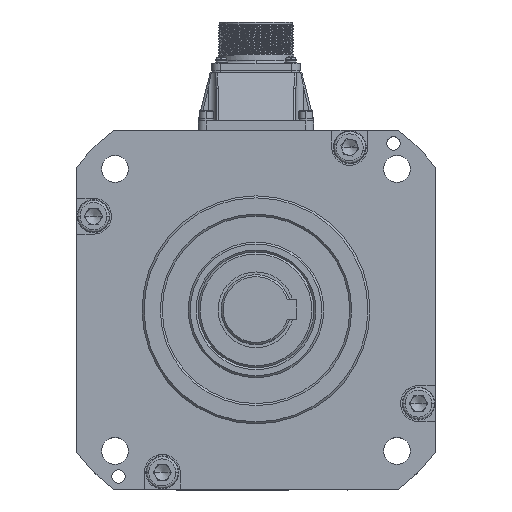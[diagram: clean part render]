
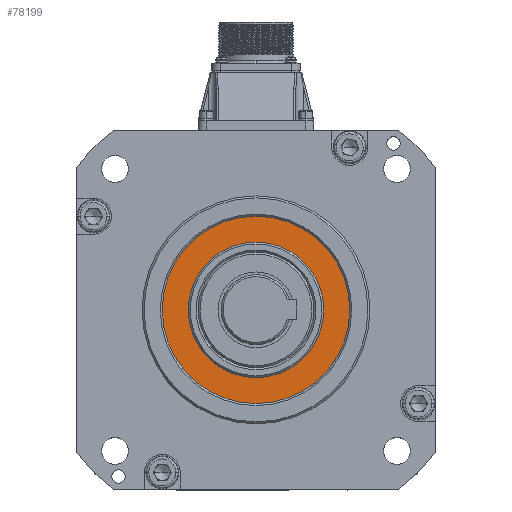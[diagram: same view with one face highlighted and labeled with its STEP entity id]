
A CAD part, top view. The second image highlights one B-rep face of the part: STEP entity #78199.
In plain terms, the highlighted planar face has unit normal (0, 0, 1).
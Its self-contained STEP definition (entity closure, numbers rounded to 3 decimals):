
#2444 = FACE_OUTER_BOUND ( 'NONE', #100768, .T. ) ;
#13107 = PLANE ( 'NONE',  #45770 ) ;
#14403 = DIRECTION ( 'NONE',  ( 0., 0., -1. ) ) ;
#15443 = EDGE_CURVE ( 'NONE', #40021, #72873, #42078, .T. ) ;
#18498 = DIRECTION ( 'NONE',  ( 0., 0., 1. ) ) ;
#21223 = DIRECTION ( 'NONE',  ( 1., 0., 0. ) ) ;
#29231 = EDGE_CURVE ( 'NONE', #72873, #40021, #89684, .T. ) ;
#32627 = ORIENTED_EDGE ( 'NONE', *, *, #53326, .T. ) ;
#35238 = ORIENTED_EDGE ( 'NONE', *, *, #29231, .T. ) ;
#39218 = CARTESIAN_POINT ( 'NONE',  ( 194.846, 148.184, 220.3 ) ) ;
#40021 = VERTEX_POINT ( 'NONE', #97111 ) ;
#42078 = CIRCLE ( 'NONE', #102518, 34. ) ;
#43380 = CIRCLE ( 'NONE', #103252, 47. ) ;
#45197 = CARTESIAN_POINT ( 'NONE',  ( 194.846, 148.184, 220.3 ) ) ;
#45770 = AXIS2_PLACEMENT_3D ( 'NONE', #45197, #69685, #21223 ) ;
#46860 = CARTESIAN_POINT ( 'NONE',  ( 194.846, 148.184, 220.3 ) ) ;
#47308 = DIRECTION ( 'NONE',  ( -1., 0., 0. ) ) ;
#47800 = CARTESIAN_POINT ( 'NONE',  ( 228.846, 148.184, 220.3 ) ) ;
#53326 = EDGE_CURVE ( 'NONE', #78063, #67942, #79044, .T. ) ;
#55059 = DIRECTION ( 'NONE',  ( -1., 0., 0. ) ) ;
#59794 = CARTESIAN_POINT ( 'NONE',  ( 241.846, 148.184, 220.3 ) ) ;
#62764 = AXIS2_PLACEMENT_3D ( 'NONE', #62800, #14403, #70943 ) ;
#62800 = CARTESIAN_POINT ( 'NONE',  ( 194.846, 148.184, 220.3 ) ) ;
#64446 = FACE_BOUND ( 'NONE', #96425, .T. ) ;
#65630 = AXIS2_PLACEMENT_3D ( 'NONE', #39218, #95746, #47308 ) ;
#66952 = CARTESIAN_POINT ( 'NONE',  ( 194.846, 148.184, 220.3 ) ) ;
#67942 = VERTEX_POINT ( 'NONE', #81357 ) ;
#69685 = DIRECTION ( 'NONE',  ( 0., 0., 1. ) ) ;
#70943 = DIRECTION ( 'NONE',  ( -1., 0., 0. ) ) ;
#72873 = VERTEX_POINT ( 'NONE', #47800 ) ;
#75045 = DIRECTION ( 'NONE',  ( -1., 0., 0. ) ) ;
#78063 = VERTEX_POINT ( 'NONE', #59794 ) ;
#78199 = ADVANCED_FACE ( 'NONE', ( #2444, #64446 ), #13107, .T. ) ;
#79044 = CIRCLE ( 'NONE', #65630, 47. ) ;
#81357 = CARTESIAN_POINT ( 'NONE',  ( 147.846, 148.184, 220.3 ) ) ;
#81981 = ORIENTED_EDGE ( 'NONE', *, *, #15443, .T. ) ;
#89684 = CIRCLE ( 'NONE', #62764, 34. ) ;
#95746 = DIRECTION ( 'NONE',  ( 0., 0., 1. ) ) ;
#96425 = EDGE_LOOP ( 'NONE', ( #81981, #35238 ) ) ;
#97111 = CARTESIAN_POINT ( 'NONE',  ( 160.846, 148.184, 220.3 ) ) ;
#97281 = EDGE_CURVE ( 'NONE', #67942, #78063, #43380, .T. ) ;
#100768 = EDGE_LOOP ( 'NONE', ( #100824, #32627 ) ) ;
#100824 = ORIENTED_EDGE ( 'NONE', *, *, #97281, .T. ) ;
#102518 = AXIS2_PLACEMENT_3D ( 'NONE', #46860, #103453, #55059 ) ;
#103252 = AXIS2_PLACEMENT_3D ( 'NONE', #66952, #18498, #75045 ) ;
#103453 = DIRECTION ( 'NONE',  ( 0., 0., -1. ) ) ;
